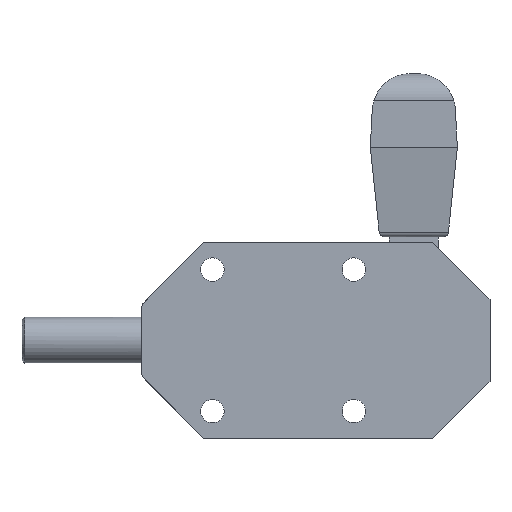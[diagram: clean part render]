
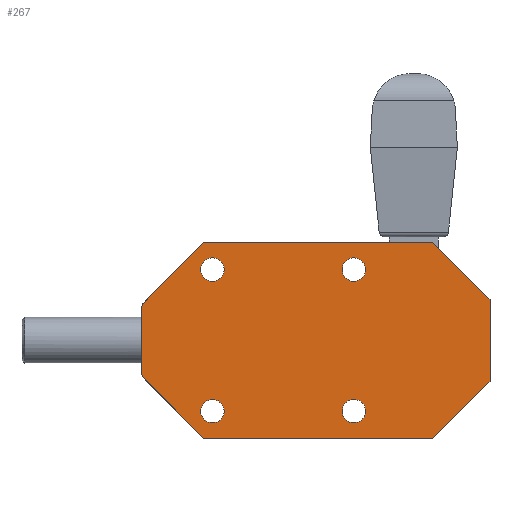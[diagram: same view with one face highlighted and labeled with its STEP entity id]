
A CAD part, front view. The second image highlights one B-rep face of the part: STEP entity #267.
In plain terms, the highlighted planar face has unit normal (0, -1, 0).
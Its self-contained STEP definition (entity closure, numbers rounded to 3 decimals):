
#267 = ADVANCED_FACE( '', ( #427, #428, #429, #430, #431 ), #432, .F. );
#427 = FACE_BOUND( '', #718, .T. );
#428 = FACE_BOUND( '', #719, .T. );
#429 = FACE_BOUND( '', #720, .T. );
#430 = FACE_BOUND( '', #721, .T. );
#431 = FACE_OUTER_BOUND( '', #722, .T. );
#432 = PLANE( '', #723 );
#718 = EDGE_LOOP( '', ( #1121 ) );
#719 = EDGE_LOOP( '', ( #1122 ) );
#720 = EDGE_LOOP( '', ( #1123 ) );
#721 = EDGE_LOOP( '', ( #1124 ) );
#722 = EDGE_LOOP( '', ( #1125, #1126, #1127, #1128, #1129, #1130, #1131, #1132, #1133, #1134 ) );
#723 = AXIS2_PLACEMENT_3D( '', #1135, #1136, #1137 );
#1121 = ORIENTED_EDGE( '', *, *, #1808, .F. );
#1122 = ORIENTED_EDGE( '', *, *, #1812, .F. );
#1123 = ORIENTED_EDGE( '', *, *, #1816, .F. );
#1124 = ORIENTED_EDGE( '', *, *, #1820, .F. );
#1125 = ORIENTED_EDGE( '', *, *, #1838, .F. );
#1126 = ORIENTED_EDGE( '', *, *, #1839, .F. );
#1127 = ORIENTED_EDGE( '', *, *, #1840, .F. );
#1128 = ORIENTED_EDGE( '', *, *, #1841, .F. );
#1129 = ORIENTED_EDGE( '', *, *, #1842, .F. );
#1130 = ORIENTED_EDGE( '', *, *, #1843, .F. );
#1131 = ORIENTED_EDGE( '', *, *, #1801, .F. );
#1132 = ORIENTED_EDGE( '', *, *, #1844, .F. );
#1133 = ORIENTED_EDGE( '', *, *, #1795, .F. );
#1134 = ORIENTED_EDGE( '', *, *, #1798, .F. );
#1135 = CARTESIAN_POINT( '', ( 1.5, 0., -5.979 ) );
#1136 = DIRECTION( '', ( 0., 1., 0. ) );
#1137 = DIRECTION( '', ( 0., 0., 1. ) );
#1795 = EDGE_CURVE( '', #2044, #2042, #2046, .T. );
#1798 = EDGE_CURVE( '', #2049, #2044, #2051, .T. );
#1801 = EDGE_CURVE( '', #2055, #2057, #2058, .T. );
#1808 = EDGE_CURVE( '', #2070, #2070, #2071, .T. );
#1812 = EDGE_CURVE( '', #2078, #2078, #2079, .T. );
#1816 = EDGE_CURVE( '', #2086, #2086, #2087, .T. );
#1820 = EDGE_CURVE( '', #2094, #2094, #2095, .T. );
#1838 = EDGE_CURVE( '', #2125, #2049, #2126, .T. );
#1839 = EDGE_CURVE( '', #2127, #2125, #2128, .T. );
#1840 = EDGE_CURVE( '', #2129, #2127, #2130, .T. );
#1841 = EDGE_CURVE( '', #2131, #2129, #2132, .T. );
#1842 = EDGE_CURVE( '', #2133, #2131, #2134, .T. );
#1843 = EDGE_CURVE( '', #2057, #2133, #2135, .T. );
#1844 = EDGE_CURVE( '', #2042, #2055, #2136, .T. );
#2042 = VERTEX_POINT( '', #2470 );
#2044 = VERTEX_POINT( '', #2473 );
#2046 = CIRCLE( '', #2476, 1.5 );
#2049 = VERTEX_POINT( '', #2479 );
#2051 = LINE( '', #2482, #2483 );
#2055 = VERTEX_POINT( '', #2488 );
#2057 = VERTEX_POINT( '', #2491 );
#2058 = LINE( '', #2492, #2493 );
#2070 = VERTEX_POINT( '', #2506 );
#2071 = CIRCLE( '', #2507, 2.15 );
#2078 = VERTEX_POINT( '', #2514 );
#2079 = CIRCLE( '', #2515, 2.15 );
#2086 = VERTEX_POINT( '', #2522 );
#2087 = CIRCLE( '', #2523, 2.15 );
#2094 = VERTEX_POINT( '', #2530 );
#2095 = CIRCLE( '', #2531, 2.15 );
#2125 = VERTEX_POINT( '', #2574 );
#2126 = CIRCLE( '', #2575, 1.5 );
#2127 = VERTEX_POINT( '', #2576 );
#2128 = LINE( '', #2577, #2578 );
#2129 = VERTEX_POINT( '', #2579 );
#2130 = LINE( '', #2580, #2581 );
#2131 = VERTEX_POINT( '', #2582 );
#2132 = LINE( '', #2583, #2584 );
#2133 = VERTEX_POINT( '', #2585 );
#2134 = LINE( '', #2586, #2587 );
#2135 = LINE( '', #2588, #2589 );
#2136 = LINE( '', #2590, #2591 );
#2470 = CARTESIAN_POINT( '', ( 0.439, 0., 7.039 ) );
#2473 = CARTESIAN_POINT( '', ( 0., 0., 5.979 ) );
#2476 = AXIS2_PLACEMENT_3D( '', #3222, #3223, #3224 );
#2479 = CARTESIAN_POINT( '', ( 0., 0., -5.979 ) );
#2482 = CARTESIAN_POINT( '', ( 0., 0., -5.979 ) );
#2483 = VECTOR( '', #3229, 1000. );
#2488 = CARTESIAN_POINT( '', ( 11.4, 0., 18. ) );
#2491 = CARTESIAN_POINT( '', ( 53.5, 0., 18. ) );
#2492 = CARTESIAN_POINT( '', ( 11.4, 0., 18. ) );
#2493 = VECTOR( '', #3232, 1000. );
#2506 = CARTESIAN_POINT( '', ( 13., 0., -15.15 ) );
#2507 = AXIS2_PLACEMENT_3D( '', #3249, #3250, #3251 );
#2514 = CARTESIAN_POINT( '', ( 39., 0., -15.15 ) );
#2515 = AXIS2_PLACEMENT_3D( '', #3261, #3262, #3263 );
#2522 = CARTESIAN_POINT( '', ( 39., 0., 10.85 ) );
#2523 = AXIS2_PLACEMENT_3D( '', #3273, #3274, #3275 );
#2530 = CARTESIAN_POINT( '', ( 13., 0., 10.85 ) );
#2531 = AXIS2_PLACEMENT_3D( '', #3285, #3286, #3287 );
#2574 = CARTESIAN_POINT( '', ( 0.439, 0., -7.039 ) );
#2575 = AXIS2_PLACEMENT_3D( '', #3313, #3314, #3315 );
#2576 = CARTESIAN_POINT( '', ( 11.4, 0., -18. ) );
#2577 = CARTESIAN_POINT( '', ( 11.4, 0., -18. ) );
#2578 = VECTOR( '', #3316, 1000. );
#2579 = CARTESIAN_POINT( '', ( 53.5, 0., -18. ) );
#2580 = CARTESIAN_POINT( '', ( 53.5, 0., -18. ) );
#2581 = VECTOR( '', #3317, 1000. );
#2582 = CARTESIAN_POINT( '', ( 64., 0., -7.5 ) );
#2583 = CARTESIAN_POINT( '', ( 64., 0., -7.5 ) );
#2584 = VECTOR( '', #3318, 1000. );
#2585 = CARTESIAN_POINT( '', ( 64., 0., 7.5 ) );
#2586 = CARTESIAN_POINT( '', ( 64., 0., 7.5 ) );
#2587 = VECTOR( '', #3319, 1000. );
#2588 = CARTESIAN_POINT( '', ( 53.5, 0., 18. ) );
#2589 = VECTOR( '', #3320, 1000. );
#2590 = CARTESIAN_POINT( '', ( 0.439, 0., 7.039 ) );
#2591 = VECTOR( '', #3321, 1000. );
#3222 = CARTESIAN_POINT( '', ( 1.5, 0., 5.979 ) );
#3223 = DIRECTION( '', ( 0., 1., 0. ) );
#3224 = DIRECTION( '', ( 1., 0., 0. ) );
#3229 = DIRECTION( '', ( 0., 0., 1. ) );
#3232 = DIRECTION( '', ( 1., 0., 0. ) );
#3249 = CARTESIAN_POINT( '', ( 13., 0., -13. ) );
#3250 = DIRECTION( '', ( 0., -1., 0. ) );
#3251 = DIRECTION( '', ( 0., 0., -1. ) );
#3261 = CARTESIAN_POINT( '', ( 39., 0., -13. ) );
#3262 = DIRECTION( '', ( 0., -1., 0. ) );
#3263 = DIRECTION( '', ( 0., 0., -1. ) );
#3273 = CARTESIAN_POINT( '', ( 39., 0., 13. ) );
#3274 = DIRECTION( '', ( 0., -1., 0. ) );
#3275 = DIRECTION( '', ( 0., 0., -1. ) );
#3285 = CARTESIAN_POINT( '', ( 13., 0., 13. ) );
#3286 = DIRECTION( '', ( 0., -1., 0. ) );
#3287 = DIRECTION( '', ( 0., 0., -1. ) );
#3313 = CARTESIAN_POINT( '', ( 1.5, 0., -5.979 ) );
#3314 = DIRECTION( '', ( 0., 1., 0. ) );
#3315 = DIRECTION( '', ( 1., 0., 0. ) );
#3316 = DIRECTION( '', ( -0.707, 0., 0.707 ) );
#3317 = DIRECTION( '', ( -1., 0., 0. ) );
#3318 = DIRECTION( '', ( -0.707, 0., -0.707 ) );
#3319 = DIRECTION( '', ( 0., 0., -1. ) );
#3320 = DIRECTION( '', ( 0.707, 0., -0.707 ) );
#3321 = DIRECTION( '', ( 0.707, 0., 0.707 ) );
